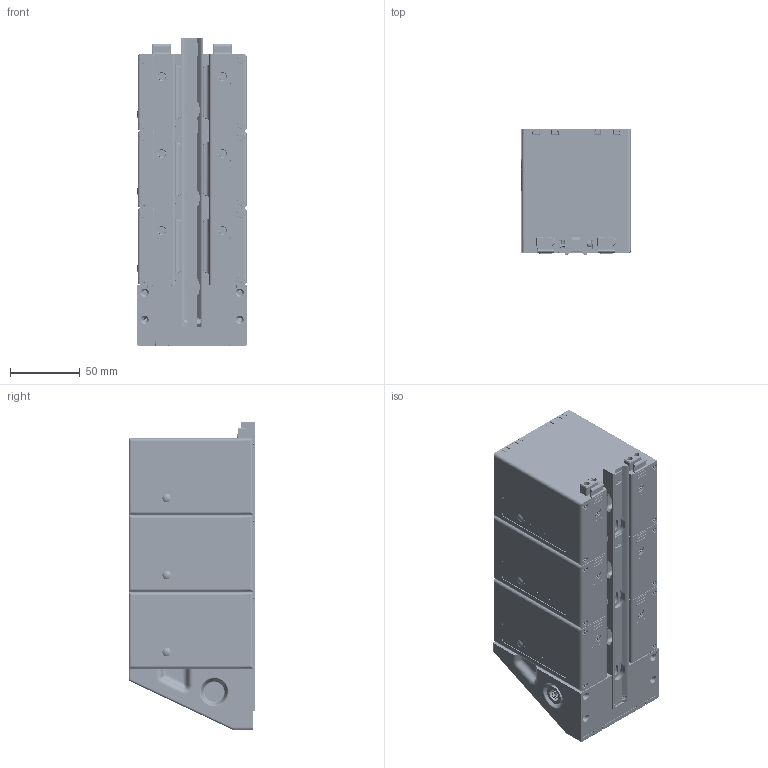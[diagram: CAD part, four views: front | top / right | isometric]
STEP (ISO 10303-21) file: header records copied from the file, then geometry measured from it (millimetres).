
FILE_DESCRIPTION (( 'STEP AP214' ), '1' );
FILE_NAME ('LGX 3X Basic Dock.STEP', '2025-11-04T01:04:04', ( '' ), ( '' ), 'SwSTEP 2.0', 'SolidWorks 2021', '' );
FILE_SCHEMA (( 'AUTOMOTIVE_DESIGN' ));
Length unit declared in the file: millimetre
Products named in the file (22): LGX-Encl_Extrusion Profile; M3 Screw_M3x18; LGX_TLock; XT60F; ST3 Plug; LGX-Rail_Rail x3; M3 Screw_M3x12; M3 Screw_M3x5; LGX Cell Assembly; XT60M; LXG Single Module_B2 Front Locked; LGX-Dock R3_Shell Only; LGX-Ovl; LXG Single Module_B2 Rear Locked; LiGo 10X PCB P5; LGX 3X Basic Dock; LGX-Base_InjectionMolded; LGX-Latch; LXG Single Module_B2 Locked; LG10X-Top_InjectionMolding; LGX-Dock R3_Dock Only
Assembly tree (93 placements, depth 4):
  LGX 3X Basic Dock
    LGX-Rail_Rail x3
    LGX-Dock R3_Dock Only
    XT60F  x2
    LGX-Dock R3_Shell Only
    LXG Single Module_B2 Front Locked
      LG10X-Top_InjectionMolding
      LGX-Encl_Extrusion Profile
      LGX-Base_InjectionMolded
      LGX Cell Assembly
        XT60F  x2
        XT60M  x2
        LiGo 10X PCB P5
      LGX-Latch  x2
      LGX-Ovl
      LGX_TLock  x4
      M3 Screw_M3x18  x4
      M3 Screw_M3x5  x2
      M3 Screw_M3x12  x8
    LXG Single Module_B2 Locked
      LG10X-Top_InjectionMolding
      LGX-Encl_Extrusion Profile
      LGX-Base_InjectionMolded
      LGX Cell Assembly
        XT60F  x2
        XT60M  x2
      LGX-Latch  x2
      LGX-Ovl
      LGX_TLock  x4
      M3 Screw_M3x18  x4
      M3 Screw_M3x5  x2
      M3 Screw_M3x12  x8
    LXG Single Module_B2 Rear Locked
      LG10X-Top_InjectionMolding
      LGX-Encl_Extrusion Profile
      LGX-Base_InjectionMolded
      LGX Cell Assembly
        XT60F  x2
        XT60M  x2
      LGX-Latch  x2
      LGX-Ovl
      LGX_TLock  x4
      M3 Screw_M3x18  x4
      M3 Screw_M3x5  x2
      M3 Screw_M3x12  x8
    ST3 Plug
Bounding box: 79.35 x 90.67 x 220.11 mm (x, y, z)
Volume: 336979.7 mm3; surface area: 342428.3 mm2
Topology: 135 solids, 138 shells, 13503 faces, 33334 edges, 19887 vertices
Faces by surface type: cylinder 4575, plane 3559, bspline 3130, torus 1460, cone 724, sphere 55
Entity records: 149226 total; most frequent: CARTESIAN_POINT 48818, ORIENTED_EDGE 21112, DIRECTION 19041, EDGE_CURVE 10556, AXIS2_PLACEMENT_3D 7242, VERTEX_POINT 6421, VECTOR 4557, LINE 4557
